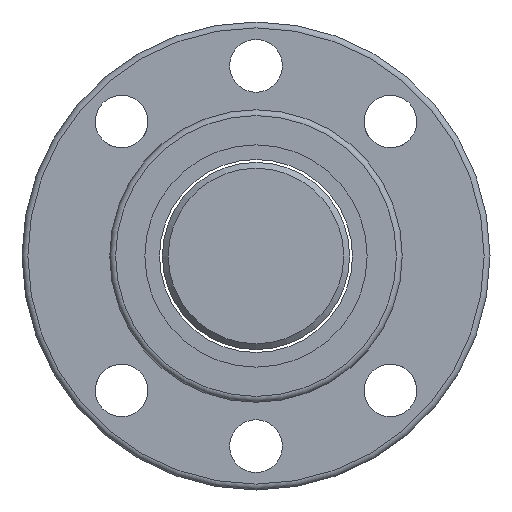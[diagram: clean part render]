
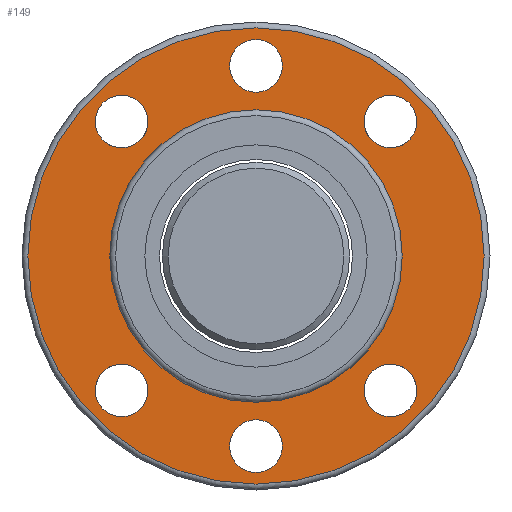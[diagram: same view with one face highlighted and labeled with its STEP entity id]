
A CAD part, left-side view. The second image highlights one B-rep face of the part: STEP entity #149.
In plain terms, the highlighted planar face has unit normal (-1, 0, 0).
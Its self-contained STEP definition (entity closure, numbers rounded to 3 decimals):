
#116=PLANE('',#647);
#131=FACE_OUTER_BOUND('',#301,.T.);
#149=ADVANCED_FACE('',(#214,#215,#216,#217,#218,#219,#131,#220),#116,.F.);
#214=FACE_BOUND('',#295,.T.);
#215=FACE_BOUND('',#296,.T.);
#216=FACE_BOUND('',#297,.T.);
#217=FACE_BOUND('',#298,.T.);
#218=FACE_BOUND('',#299,.T.);
#219=FACE_BOUND('',#300,.T.);
#220=FACE_BOUND('',#302,.T.);
#295=EDGE_LOOP('',(#393));
#296=EDGE_LOOP('',(#394));
#297=EDGE_LOOP('',(#395));
#298=EDGE_LOOP('',(#396));
#299=EDGE_LOOP('',(#397));
#300=EDGE_LOOP('',(#398));
#301=EDGE_LOOP('',(#399));
#302=EDGE_LOOP('',(#400));
#393=ORIENTED_EDGE('',*,*,#540,.T.);
#394=ORIENTED_EDGE('',*,*,#541,.T.);
#395=ORIENTED_EDGE('',*,*,#542,.T.);
#396=ORIENTED_EDGE('',*,*,#543,.T.);
#397=ORIENTED_EDGE('',*,*,#544,.T.);
#398=ORIENTED_EDGE('',*,*,#545,.T.);
#399=ORIENTED_EDGE('',*,*,#546,.F.);
#400=ORIENTED_EDGE('',*,*,#538,.T.);
#489=VERTEX_POINT('',#920);
#491=VERTEX_POINT('',#925);
#492=VERTEX_POINT('',#927);
#493=VERTEX_POINT('',#929);
#494=VERTEX_POINT('',#931);
#495=VERTEX_POINT('',#933);
#496=VERTEX_POINT('',#935);
#497=VERTEX_POINT('',#937);
#538=EDGE_CURVE('',#489,#489,#587,.T.);
#540=EDGE_CURVE('',#491,#491,#589,.T.);
#541=EDGE_CURVE('',#492,#492,#590,.T.);
#542=EDGE_CURVE('',#493,#493,#591,.T.);
#543=EDGE_CURVE('',#494,#494,#592,.T.);
#544=EDGE_CURVE('',#495,#495,#593,.T.);
#545=EDGE_CURVE('',#496,#496,#594,.T.);
#546=EDGE_CURVE('',#497,#497,#595,.T.);
#587=CIRCLE('',#637,25.);
#589=CIRCLE('',#640,4.5);
#590=CIRCLE('',#641,4.5);
#591=CIRCLE('',#642,4.5);
#592=CIRCLE('',#643,4.5);
#593=CIRCLE('',#644,4.5);
#594=CIRCLE('',#645,4.5);
#595=CIRCLE('',#646,39.);
#637=AXIS2_PLACEMENT_3D('',#919,#732,#733);
#640=AXIS2_PLACEMENT_3D('',#924,#738,#739);
#641=AXIS2_PLACEMENT_3D('',#926,#740,#741);
#642=AXIS2_PLACEMENT_3D('',#928,#742,#743);
#643=AXIS2_PLACEMENT_3D('',#930,#744,#745);
#644=AXIS2_PLACEMENT_3D('',#932,#746,#747);
#645=AXIS2_PLACEMENT_3D('',#934,#748,#749);
#646=AXIS2_PLACEMENT_3D('',#936,#750,#751);
#647=AXIS2_PLACEMENT_3D('',#938,#752,#753);
#732=DIRECTION('',(1.,0.,0.));
#733=DIRECTION('',(0.,0.,-1.));
#738=DIRECTION('',(1.,0.,0.));
#739=DIRECTION('',(0.,0.,-1.));
#740=DIRECTION('',(1.,0.,0.));
#741=DIRECTION('',(0.,0.,-1.));
#742=DIRECTION('',(1.,0.,0.));
#743=DIRECTION('',(0.,0.,-1.));
#744=DIRECTION('',(1.,0.,0.));
#745=DIRECTION('',(0.,0.,-1.));
#746=DIRECTION('',(1.,0.,0.));
#747=DIRECTION('',(0.,0.,-1.));
#748=DIRECTION('',(1.,0.,0.));
#749=DIRECTION('',(0.,0.,-1.));
#750=DIRECTION('',(1.,0.,0.));
#751=DIRECTION('',(0.,0.,-1.));
#752=DIRECTION('',(1.,0.,0.));
#753=DIRECTION('',(0.,0.,-1.));
#919=CARTESIAN_POINT('',(-27.,0.,0.));
#920=CARTESIAN_POINT('',(-27.,0.,-25.));
#924=CARTESIAN_POINT('',(-27.,22.981,22.981));
#925=CARTESIAN_POINT('',(-27.,22.981,18.481));
#926=CARTESIAN_POINT('',(-27.,22.981,-22.981));
#927=CARTESIAN_POINT('',(-27.,22.981,-27.481));
#928=CARTESIAN_POINT('',(-27.,0.,-32.5));
#929=CARTESIAN_POINT('',(-27.,0.,-37.));
#930=CARTESIAN_POINT('',(-27.,-22.981,-22.981));
#931=CARTESIAN_POINT('',(-27.,-22.981,-27.481));
#932=CARTESIAN_POINT('',(-27.,-22.981,22.981));
#933=CARTESIAN_POINT('',(-27.,-22.981,18.481));
#934=CARTESIAN_POINT('',(-27.,0.,32.5));
#935=CARTESIAN_POINT('',(-27.,0.,28.));
#936=CARTESIAN_POINT('',(-27.,0.,0.));
#937=CARTESIAN_POINT('',(-27.,0.,-39.));
#938=CARTESIAN_POINT('',(-27.,32.,0.));
